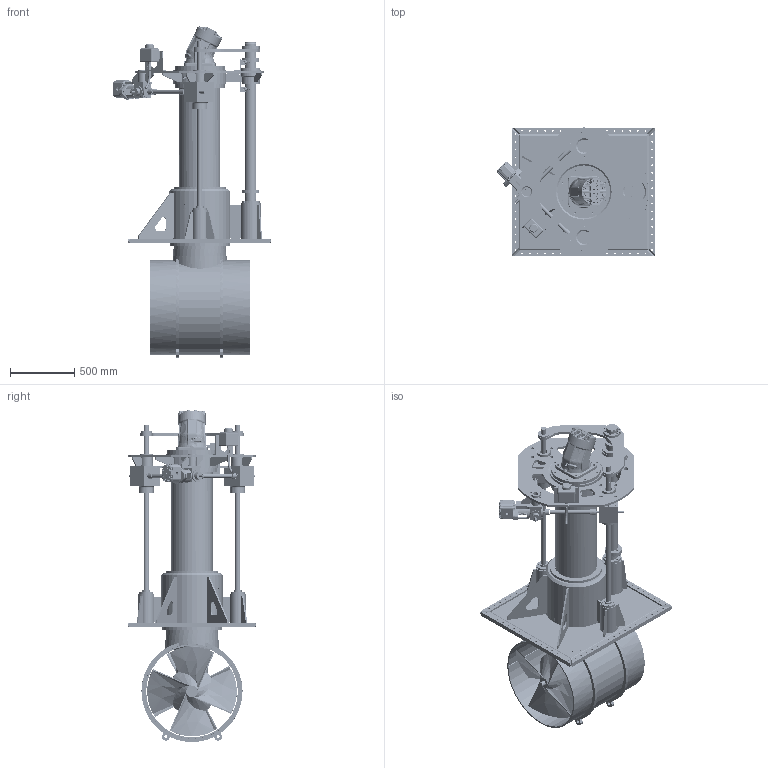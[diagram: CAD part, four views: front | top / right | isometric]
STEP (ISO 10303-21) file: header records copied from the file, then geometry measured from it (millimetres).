
FILE_DESCRIPTION(/* description */ (''),/* implementation_level */ '2;1');
FILE_NAME(/* name */ 'Q:\THRUSTERS\THRUSTER SALES & SUPPORT DOCS\THRUSTER Sales\H-V\H-0700-V\H-0700-RETRACTED.stp',/* time_stamp */ '2020-03-17T16:54:25+00:00',/* author */ ('charlotte.richardson'),/* organization */ (''),/* preprocessor_version */ 'ST-DEVELOPER v17',/* originating_system */ 'Autodesk Inventor 2019',/* authorisation */ '');
FILE_SCHEMA (('AUTOMOTIVE_DESIGN { 1 0 10303 214 3 1 1 }'));
Length unit declared in the file: millimetre
Products named in the file (1): H-0700-V_Shrinkwrap_1
Bounding box: 1233.22 x 1001.98 x 2579.23 mm (x, y, z)
Volume: 228528847.8 mm3; surface area: 18004019.8 mm2
Topology: 8 solids, 8 shells, 5302 faces, 13945 edges, 9016 vertices
Faces by surface type: plane 2286, cylinder 1243, bspline 1219, cone 349, torus 172, sphere 33
Full cylindrical faces by diameter (mm): 3 x5, 4.2 x2, 5 x4, 7.2 x2, 8 x2, 9 x1, 9.525 x1, 10 x2, 10.25 x36, 10.3 x34, 10.5 x20, 11 x6, 12 x14, 12.4 x22, 12.5 x31, 13 x102, 13.84 x2, 14 x9, 14.32 x2, 14.662 x2, 15 x3, 15.25 x4, 15.8 x13, 16 x13, 16.662 x2, 17 x11, 17.5 x1, 18 x17, 18.25 x2, 18.376 x2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
Entity records: 265447 total; most frequent: CARTESIAN_POINT 134485, ORIENTED_EDGE 27680, DIRECTION 23586, EDGE_CURVE 13840, VERTEX_POINT 9015, AXIS2_PLACEMENT_3D 8531, LINE 6524, VECTOR 6524
